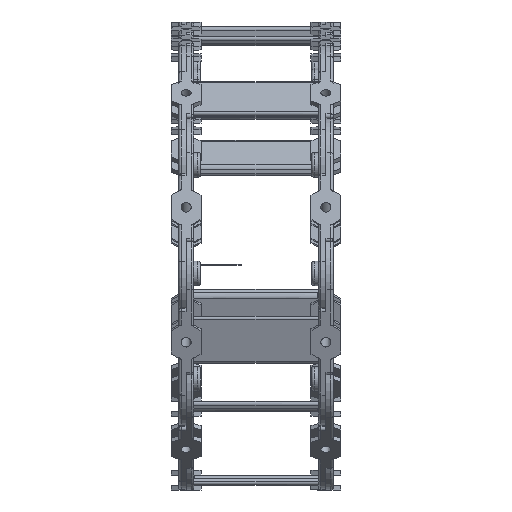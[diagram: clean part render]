
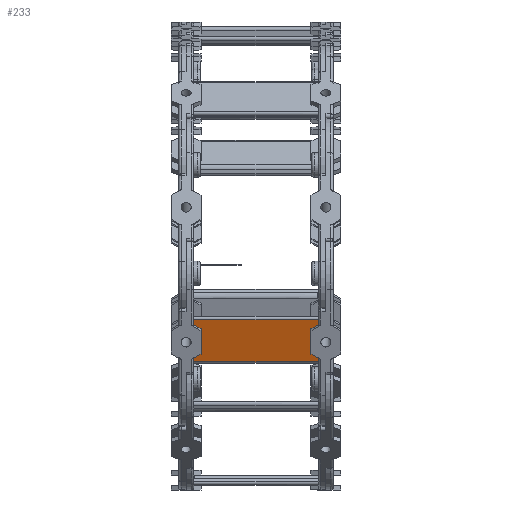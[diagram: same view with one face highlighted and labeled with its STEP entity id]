
A CAD part, front view. The second image highlights one B-rep face of the part: STEP entity #233.
In plain terms, the highlighted planar face has unit normal (0, -0.939, -0.345) as drawn and (0, 0, -1) by its records, which use the part's own axes.
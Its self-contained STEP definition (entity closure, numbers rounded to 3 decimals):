
#130=CARTESIAN_POINT('',(-2.6,27.,4.));
#131=DIRECTION('',(0.0,0.0,-1.0));
#132=DIRECTION('',(0.0,-1.0,0.0));
#133=AXIS2_PLACEMENT_3D('',#130,#131,#132);
#134=PLANE('',#133);
#135=CARTESIAN_POINT('',(112.,58.464,4.));
#136=VERTEX_POINT('',#135);
#137=CARTESIAN_POINT('',(106.,55.0,4.));
#138=VERTEX_POINT('',#137);
#139=CARTESIAN_POINT('',(112.,58.464,4.));
#140=DIRECTION('',(-0.866,-0.5,0.));
#141=VECTOR('',#140,6.928);
#142=LINE('',#139,#141);
#143=EDGE_CURVE('',#136,#138,#142,.T.);
#144=ORIENTED_EDGE('',*,*,#143,.T.);
#145=CARTESIAN_POINT('',(106.,35.,4.));
#146=VERTEX_POINT('',#145);
#147=CARTESIAN_POINT('',(106.,55.0,4.));
#148=DIRECTION('',(0.0,-1.0,0.0));
#149=VECTOR('',#148,20.);
#150=LINE('',#147,#149);
#151=EDGE_CURVE('',#138,#146,#150,.T.);
#152=ORIENTED_EDGE('',*,*,#151,.T.);
#153=CARTESIAN_POINT('',(112.,31.536,4.));
#154=VERTEX_POINT('',#153);
#155=CARTESIAN_POINT('',(106.,35.,4.));
#156=DIRECTION('',(0.866,-0.5,0.0));
#157=VECTOR('',#156,6.928);
#158=LINE('',#155,#157);
#159=EDGE_CURVE('',#146,#154,#158,.T.);
#160=ORIENTED_EDGE('',*,*,#159,.T.);
#161=CARTESIAN_POINT('',(112.,27.,4.));
#162=VERTEX_POINT('',#161);
#163=CARTESIAN_POINT('',(112.,27.,4.));
#164=DIRECTION('',(0.0,1.0,0.0));
#165=VECTOR('',#164,4.536);
#166=LINE('',#163,#165);
#167=EDGE_CURVE('',#162,#154,#166,.T.);
#168=ORIENTED_EDGE('',*,*,#167,.F.);
#169=CARTESIAN_POINT('',(12.,27.,4.));
#170=VERTEX_POINT('',#169);
#171=CARTESIAN_POINT('',(112.,27.,4.));
#172=DIRECTION('',(-1.0,0.0,0.0));
#173=VECTOR('',#172,100.);
#174=LINE('',#171,#173);
#175=EDGE_CURVE('',#162,#170,#174,.T.);
#176=ORIENTED_EDGE('',*,*,#175,.T.);
#177=CARTESIAN_POINT('',(12.,31.536,4.));
#178=VERTEX_POINT('',#177);
#179=CARTESIAN_POINT('',(12.,31.536,4.));
#180=DIRECTION('',(0.0,-1.0,0.0));
#181=VECTOR('',#180,4.536);
#182=LINE('',#179,#181);
#183=EDGE_CURVE('',#178,#170,#182,.T.);
#184=ORIENTED_EDGE('',*,*,#183,.F.);
#185=CARTESIAN_POINT('',(18.,35.0,4.));
#186=VERTEX_POINT('',#185);
#187=CARTESIAN_POINT('',(12.,31.536,4.));
#188=DIRECTION('',(0.866,0.5,0.));
#189=VECTOR('',#188,6.928);
#190=LINE('',#187,#189);
#191=EDGE_CURVE('',#178,#186,#190,.T.);
#192=ORIENTED_EDGE('',*,*,#191,.T.);
#193=CARTESIAN_POINT('',(18.,55.,4.));
#194=VERTEX_POINT('',#193);
#195=CARTESIAN_POINT('',(18.,35.0,4.));
#196=DIRECTION('',(0.0,1.0,0.0));
#197=VECTOR('',#196,20.);
#198=LINE('',#195,#197);
#199=EDGE_CURVE('',#186,#194,#198,.T.);
#200=ORIENTED_EDGE('',*,*,#199,.T.);
#201=CARTESIAN_POINT('',(12.,58.464,4.));
#202=VERTEX_POINT('',#201);
#203=CARTESIAN_POINT('',(18.,55.,4.));
#204=DIRECTION('',(-0.866,0.5,0.0));
#205=VECTOR('',#204,6.928);
#206=LINE('',#203,#205);
#207=EDGE_CURVE('',#194,#202,#206,.T.);
#208=ORIENTED_EDGE('',*,*,#207,.T.);
#209=CARTESIAN_POINT('',(12.,63.,4.));
#210=VERTEX_POINT('',#209);
#211=CARTESIAN_POINT('',(12.,63.,4.));
#212=DIRECTION('',(0.0,-1.0,0.0));
#213=VECTOR('',#212,4.536);
#214=LINE('',#211,#213);
#215=EDGE_CURVE('',#210,#202,#214,.T.);
#216=ORIENTED_EDGE('',*,*,#215,.F.);
#217=CARTESIAN_POINT('',(112.,63.,4.));
#218=VERTEX_POINT('',#217);
#219=CARTESIAN_POINT('',(112.,63.,4.));
#220=DIRECTION('',(-1.0,0.0,0.0));
#221=VECTOR('',#220,100.);
#222=LINE('',#219,#221);
#223=EDGE_CURVE('',#218,#210,#222,.T.);
#224=ORIENTED_EDGE('',*,*,#223,.F.);
#225=CARTESIAN_POINT('',(112.,58.464,4.));
#226=DIRECTION('',(0.0,1.0,0.0));
#227=VECTOR('',#226,4.536);
#228=LINE('',#225,#227);
#229=EDGE_CURVE('',#136,#218,#228,.T.);
#230=ORIENTED_EDGE('',*,*,#229,.F.);
#231=EDGE_LOOP('',(#144,#152,#160,#168,#176,#184,#192,#200,#208,#216,#224,#230));
#232=FACE_OUTER_BOUND('',#231,.T.);
#233=ADVANCED_FACE('',(#232),#134,.T.);
